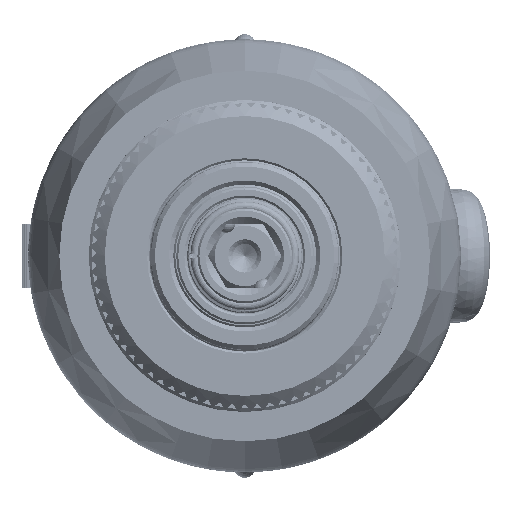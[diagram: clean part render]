
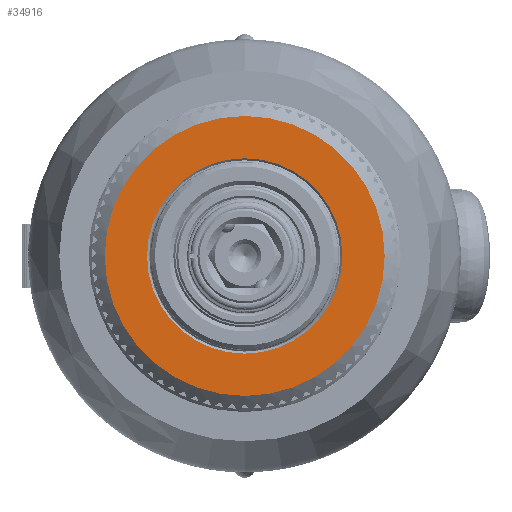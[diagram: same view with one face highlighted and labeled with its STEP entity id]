
A CAD part, front view. The second image highlights one B-rep face of the part: STEP entity #34916.
In plain terms, the highlighted planar face has unit normal (0, -1, 0).
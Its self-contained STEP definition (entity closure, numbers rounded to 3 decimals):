
#5824 = CIRCLE ( 'NONE', #163142, 13.9 ) ;
#10616 = CARTESIAN_POINT ( 'NONE',  ( -13.9, -46.443, 0. ) ) ;
#17023 = AXIS2_PLACEMENT_3D ( 'NONE', #80367, #59964, #39602 ) ;
#19036 = CARTESIAN_POINT ( 'NONE',  ( 0., -46.443, 0. ) ) ;
#21873 = EDGE_LOOP ( 'NONE', ( #175340, #161756 ) ) ;
#28180 = DIRECTION ( 'NONE',  ( 1., 0., 0. ) ) ;
#34916 = ADVANCED_FACE ( 'NONE', ( #153102, #158257 ), #130026, .F. ) ;
#39602 = DIRECTION ( 'NONE',  ( 1., 0., 0. ) ) ;
#43541 = EDGE_CURVE ( 'NONE', #170625, #59498, #47422, .T. ) ;
#47422 = CIRCLE ( 'NONE', #17023, 13.9 ) ;
#48662 = DIRECTION ( 'NONE',  ( 0., -1., 0. ) ) ;
#59498 = VERTEX_POINT ( 'NONE', #10616 ) ;
#59964 = DIRECTION ( 'NONE',  ( 0., -1., 0. ) ) ;
#67023 = AXIS2_PLACEMENT_3D ( 'NONE', #179947, #159608, #139177 ) ;
#68522 = DIRECTION ( 'NONE',  ( 1., 0., 0. ) ) ;
#69026 = CARTESIAN_POINT ( 'NONE',  ( 0., -46.443, 0. ) ) ;
#75184 = EDGE_LOOP ( 'NONE', ( #166986, #141569 ) ) ;
#80367 = CARTESIAN_POINT ( 'NONE',  ( 0., -46.443, 0. ) ) ;
#88971 = DIRECTION ( 'NONE',  ( 0., 1., 0. ) ) ;
#100110 = VERTEX_POINT ( 'NONE', #117116 ) ;
#109486 = CARTESIAN_POINT ( 'NONE',  ( 0., -46.443, 0. ) ) ;
#117096 = EDGE_CURVE ( 'NONE', #100110, #162736, #138703, .T. ) ;
#117116 = CARTESIAN_POINT ( 'NONE',  ( -9.7, -46.443, 0. ) ) ;
#130026 = PLANE ( 'NONE',  #163362 ) ;
#135952 = AXIS2_PLACEMENT_3D ( 'NONE', #19036, #198365, #177850 ) ;
#138703 = CIRCLE ( 'NONE', #67023, 9.7 ) ;
#139177 = DIRECTION ( 'NONE',  ( 1., 0., 0. ) ) ;
#141569 = ORIENTED_EDGE ( 'NONE', *, *, #170575, .T. ) ;
#146287 = CIRCLE ( 'NONE', #135952, 9.7 ) ;
#153102 = FACE_BOUND ( 'NONE', #21873, .T. ) ;
#158257 = FACE_OUTER_BOUND ( 'NONE', #75184, .T. ) ;
#159608 = DIRECTION ( 'NONE',  ( 0., 1., 0. ) ) ;
#160859 = CARTESIAN_POINT ( 'NONE',  ( 13.9, -46.443, 0. ) ) ;
#161339 = EDGE_CURVE ( 'NONE', #162736, #100110, #146287, .T. ) ;
#161756 = ORIENTED_EDGE ( 'NONE', *, *, #161339, .T. ) ;
#162736 = VERTEX_POINT ( 'NONE', #187079 ) ;
#163142 = AXIS2_PLACEMENT_3D ( 'NONE', #69026, #48662, #28180 ) ;
#163362 = AXIS2_PLACEMENT_3D ( 'NONE', #109486, #88971, #68522 ) ;
#166986 = ORIENTED_EDGE ( 'NONE', *, *, #43541, .T. ) ;
#170575 = EDGE_CURVE ( 'NONE', #59498, #170625, #5824, .T. ) ;
#170625 = VERTEX_POINT ( 'NONE', #160859 ) ;
#175340 = ORIENTED_EDGE ( 'NONE', *, *, #117096, .T. ) ;
#177850 = DIRECTION ( 'NONE',  ( 1., 0., 0. ) ) ;
#179947 = CARTESIAN_POINT ( 'NONE',  ( 0., -46.443, 0. ) ) ;
#187079 = CARTESIAN_POINT ( 'NONE',  ( 9.7, -46.443, 0. ) ) ;
#198365 = DIRECTION ( 'NONE',  ( 0., 1., 0. ) ) ;
